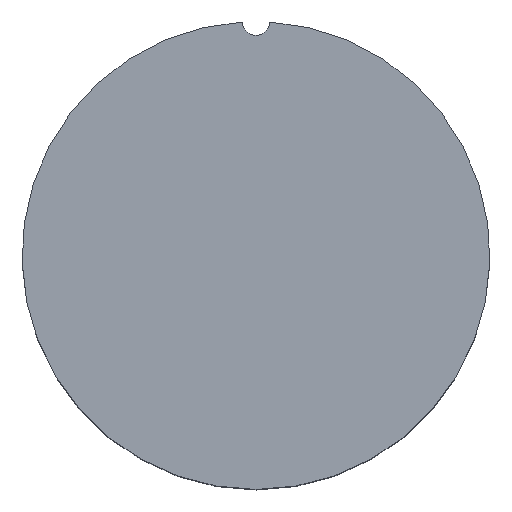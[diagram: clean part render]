
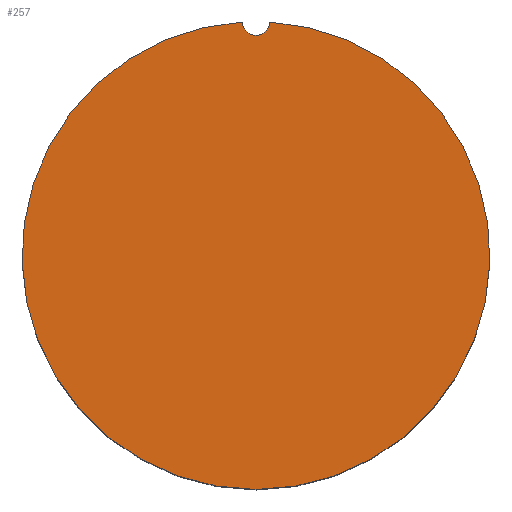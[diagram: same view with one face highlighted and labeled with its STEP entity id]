
A CAD part, top view. The second image highlights one B-rep face of the part: STEP entity #257.
In plain terms, the highlighted planar face has unit normal (0, 0, 1).
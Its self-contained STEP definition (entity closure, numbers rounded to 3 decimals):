
#43=PLANE('',#302);
#64=FACE_OUTER_BOUND('',#104,.T.);
#104=EDGE_LOOP('',(#220,#221));
#106=CIRCLE('',#262,1.5);
#127=CIRCLE('',#303,25.5);
#132=VERTEX_POINT('',#399);
#134=VERTEX_POINT('',#402);
#155=EDGE_CURVE('',#134,#132,#106,.T.);
#177=EDGE_CURVE('',#134,#132,#127,.T.);
#220=ORIENTED_EDGE('',*,*,#155,.T.);
#221=ORIENTED_EDGE('',*,*,#177,.F.);
#257=ADVANCED_FACE('',(#64),#43,.T.);
#262=AXIS2_PLACEMENT_3D('',#403,#310,#311);
#302=AXIS2_PLACEMENT_3D('',#463,#391,#392);
#303=AXIS2_PLACEMENT_3D('',#464,#393,#394);
#310=DIRECTION('center_axis',(0.,0.,-1.));
#311=DIRECTION('ref_axis',(1.,0.,0.));
#391=DIRECTION('center_axis',(0.,0.,1.));
#392=DIRECTION('ref_axis',(1.,0.,0.));
#393=DIRECTION('center_axis',(0.,0.,-1.));
#394=DIRECTION('ref_axis',(-1.,0.,0.));
#399=CARTESIAN_POINT('',(-1.499,25.456,32.));
#402=CARTESIAN_POINT('',(1.499,25.456,32.));
#403=CARTESIAN_POINT('Origin',(0.,25.5,32.));
#463=CARTESIAN_POINT('Origin',(0.,0.,32.));
#464=CARTESIAN_POINT('Origin',(0.,0.,32.));
